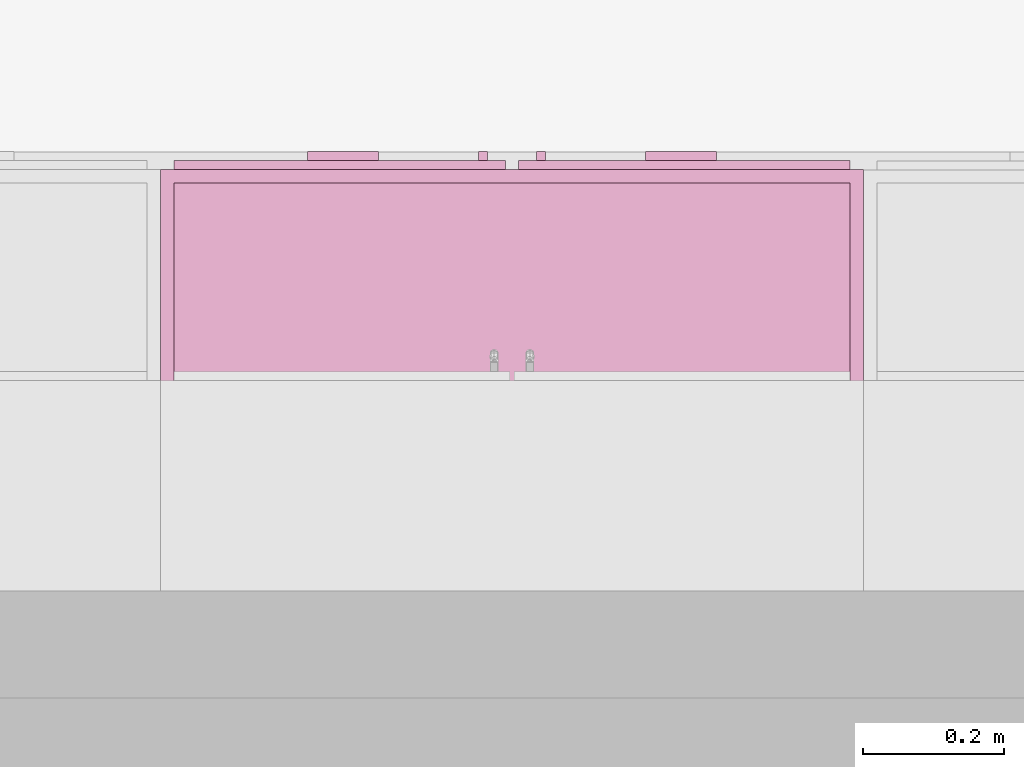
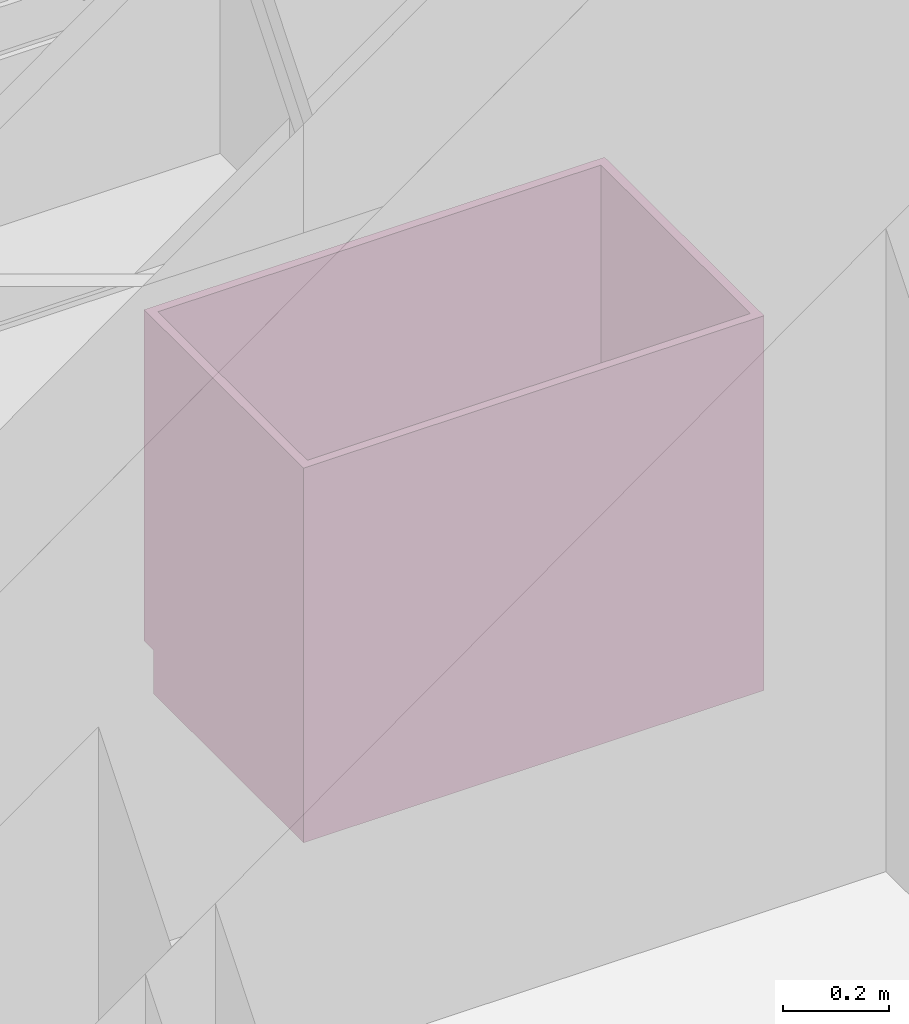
# One storey, part 11 of 14: 1 furnishing.
"""IFC4 building model written with IfcOpenShell, lengths in metres."""

from ifc_helpers import new_model, entity, si_unit, converted_unit, frame, origin, place, context, project, spatial, face_set, surface_model, source, transform, mapped, element, save


model = new_model("IFC4")

# Units and contexts
model_context = context("Model", 3, precision=1e-09, world=origin())
plan_context = context("Plan", 3, precision=1e-09, world=origin())
ifc_project = project(units=[si_unit("LENGTHUNIT", "METRE"), si_unit("AREAUNIT", "SQUARE_METRE"), si_unit("VOLUMEUNIT", "CUBIC_METRE"), converted_unit("PLANEANGLEUNIT", "DEGREE", entity("IfcRatioMeasure", 0.01745329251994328), si_unit("PLANEANGLEUNIT", "RADIAN"), dimensions=[0, 0, 0, 0, 0, 0, 0]), si_unit("TIMEUNIT", "SECOND")], contexts=[model_context, plan_context])

# Site, building, storey, space
site_placement = place(None, origin())
site = spatial("IfcSite", under=ifc_project, at=site_placement, Name="Default", CompositionType="ELEMENT")
building_placement = place(site_placement, origin())
building = spatial("IfcBuilding", under=site, at=building_placement, CompositionType="ELEMENT")
storey_placement = place(building_placement, origin())
storey = spatial("IfcBuildingStorey", under=building, at=storey_placement, Name="Level 1", CompositionType="ELEMENT", Elevation=0.0)
space_placement = place(storey_placement, origin())
space = spatial("IfcSpace", under=storey, at=space_placement, Name="B103", CompositionType="ELEMENT", PredefinedType="INTERNAL")

# Furnishing
shared_shape = source(origin(), model_context, "Body", "SurfaceModel", [
    surface_model("IfcFaceBasedSurfaceModel", [(0.9809499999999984, 0.04445000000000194, 0.8600000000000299), (0.9809499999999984, 0.04445000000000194, 0.0999999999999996), (0.01905000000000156, 0.04445000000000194, 0.0999999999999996), (0.01905000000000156, 0.04445000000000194, 0.8600000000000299), (1.0, 0.02540000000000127, 0.8600000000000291), (0.0, 0.02540000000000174, 0.8600000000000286), (1.0, 0.02540000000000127, 0.0999999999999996), (0.0, 0.02540000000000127, 0.09999999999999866), (0.01905000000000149, 0.606349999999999, 0.8600000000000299), (0.01905000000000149, 0.606349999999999, 0.09999999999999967), (0.01905000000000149, 0.06040000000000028, 0.0999999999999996), (0.0, 0.6253999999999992, 0.8600000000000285), (0.0, 0.6254000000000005, 0.0), (0.0, 0.06040000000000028, 0.0), (0.0, 0.06040000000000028, 0.09999999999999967), (0.9809499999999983, 0.6063499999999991, 0.8600000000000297), (0.9809499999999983, 0.6063499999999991, 0.09999999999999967), (1.0, 0.6253999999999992, 0.8600000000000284), (1.0, 0.6253999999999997, 0.0), (0.9809499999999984, 0.06040000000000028, 0.09999999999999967), (1.0, 0.06040000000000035, 0.09999999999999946), (1.0, 0.06040000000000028, 0.0), (0.3103250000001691, 0.0, 0.815550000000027), (0.3103250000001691, 0.0, 0.8028500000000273), (0.2087250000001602, 0.0, 0.8028500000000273), (0.2087250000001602, 0.0, 0.815550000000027), (0.7912750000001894, 0.0, 0.815550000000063), (0.7912750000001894, 0.0, 0.8028500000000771), (0.6896750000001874, 0.0, 0.8028500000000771), (0.6896750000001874, 0.0, 0.815550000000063), (0.4650750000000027, 0.0, 0.6822000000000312), (0.4650750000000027, 0.0, 0.5806000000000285), (0.4523750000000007, 0.0, 0.5806000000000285), (0.4523750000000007, 0.0, 0.6822000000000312), (0.5476249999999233, 0.0, 0.6822000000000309), (0.5476249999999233, 0.0, 0.5806000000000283), (0.5349249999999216, 0.0, 0.5806000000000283), (0.5349249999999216, 0.0, 0.6822000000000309), (0.3103250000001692, 0.01270000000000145, 0.815550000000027), (0.3103250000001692, 0.01270000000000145, 0.8028500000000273), (0.2087250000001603, 0.01270000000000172, 0.8028500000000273), (0.2087250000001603, 0.01270000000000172, 0.815550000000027), (0.7912750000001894, 0.01269999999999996, 0.815550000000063), (0.7912750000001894, 0.01269999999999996, 0.8028500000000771), (0.6896750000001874, 0.01270000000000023, 0.8028500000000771), (0.6896750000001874, 0.01270000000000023, 0.815550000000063), (0.4650750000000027, 0.0127000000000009, 0.6822000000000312), (0.4650750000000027, 0.0127000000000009, 0.5806000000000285), (0.4523750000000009, 0.0127000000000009, 0.5806000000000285), (0.4523750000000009, 0.0127000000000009, 0.6822000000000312), (0.5476249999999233, 0.01270000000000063, 0.6822000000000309), (0.5476249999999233, 0.01270000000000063, 0.5806000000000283), (0.5349249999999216, 0.01270000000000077, 0.5806000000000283), (0.5349249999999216, 0.01270000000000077, 0.6822000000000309), (0.4904749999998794, 0.0127000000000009, 0.840950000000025), (0.4904749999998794, 0.0127000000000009, 0.7393500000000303), (0.01905000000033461, 0.01270000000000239, 0.7393500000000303), (0.01905000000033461, 0.01270000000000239, 0.840950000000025), (0.9809500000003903, 0.01269999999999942, 0.8409500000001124), (0.9809500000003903, 0.01269999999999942, 0.7393500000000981), (0.509524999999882, 0.0127000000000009, 0.7393500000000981), (0.509524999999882, 0.0127000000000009, 0.8409500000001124), (0.4904749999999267, 0.0127000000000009, 0.7203000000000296), (0.4904749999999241, 0.0127000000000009, 0.119049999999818), (0.01905000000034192, 0.01270000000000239, 0.119049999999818), (0.01905000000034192, 0.01270000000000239, 0.7203000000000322), (0.9809500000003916, 0.01269999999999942, 0.7203000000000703), (0.9809500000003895, 0.01269999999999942, 0.1190499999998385), (0.5095249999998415, 0.0127000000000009, 0.1190499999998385), (0.5095249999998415, 0.0127000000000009, 0.7203000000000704), (0.4904749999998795, 0.02540000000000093, 0.840950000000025), (0.4904749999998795, 0.02540000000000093, 0.7393500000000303), (0.01905000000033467, 0.02540000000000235, 0.7393500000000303), (0.01905000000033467, 0.02540000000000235, 0.840950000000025), (0.9809500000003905, 0.02539999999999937, 0.8409500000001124), (0.9809500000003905, 0.02539999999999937, 0.7393500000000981), (0.5095249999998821, 0.02540000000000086, 0.7393500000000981), (0.5095249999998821, 0.02540000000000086, 0.8409500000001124), (0.4904749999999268, 0.02540000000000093, 0.7203000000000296), (0.4904749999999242, 0.02540000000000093, 0.119049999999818), (0.01905000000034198, 0.02540000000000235, 0.119049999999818), (0.01905000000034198, 0.02540000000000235, 0.7203000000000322), (0.9809500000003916, 0.02539999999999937, 0.7203000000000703), (0.9809500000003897, 0.02539999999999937, 0.1190499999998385), (0.5095249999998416, 0.02540000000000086, 0.1190499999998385), (0.5095249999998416, 0.02540000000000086, 0.7203000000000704), (0.9809499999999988, 0.6063499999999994, 0.1190499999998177), (0.9809499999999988, 0.04445000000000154, 0.1190499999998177), (0.01905000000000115, 0.04445000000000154, 0.1190499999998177), (0.01905000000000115, 0.6063499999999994, 0.1190499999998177), (0.9809499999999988, 0.6063499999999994, 0.09999999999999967), (0.9809499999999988, 0.04445000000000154, 0.09999999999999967), (0.01905000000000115, 0.04445000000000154, 0.09999999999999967), (0.01905000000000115, 0.6063499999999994, 0.09999999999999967)], [face_set([[[0, 1, 2, 3]], [[0, 4, 5, 3]], [[4, 6, 7, 5]], [[2, 1, 6, 7]], [[3, 8, 9, 10, 2]], [[5, 11, 8, 3]], [[7, 5, 11, 12, 13, 14]], [[2, 7, 14, 10]], [[8, 15, 16, 9]], [[11, 17, 15, 8]], [[12, 11, 17, 18]], [[1, 19, 16, 15, 0]], [[0, 15, 17, 4]], [[4, 6, 20, 21, 18, 17]], [[6, 1, 19, 20]], [[10, 9, 16, 19]], [[18, 21, 13, 12]], [[13, 14, 10, 19, 20, 21]]]), face_set([[[22, 23, 24, 25]], [[26, 27, 28, 29]], [[30, 31, 32, 33]], [[34, 35, 36, 37]], [[38, 39, 40, 41]], [[42, 43, 44, 45]], [[46, 47, 48, 49]], [[50, 51, 52, 53]], [[25, 41, 38, 22]], [[24, 40, 41, 25]], [[23, 24, 40, 39]], [[22, 23, 39, 38]], [[29, 45, 42, 26]], [[28, 44, 45, 29]], [[27, 28, 44, 43]], [[26, 27, 43, 42]], [[33, 49, 46, 30]], [[32, 48, 49, 33]], [[31, 32, 48, 47]], [[30, 31, 47, 46]], [[37, 53, 50, 34]], [[36, 52, 53, 37]], [[35, 36, 52, 51]], [[34, 35, 51, 50]]]), face_set([[[54, 55, 56, 57]], [[58, 59, 60, 61]], [[62, 63, 64, 65]], [[66, 67, 68, 69]], [[70, 71, 72, 73]], [[74, 75, 76, 77]], [[78, 79, 80, 81]], [[82, 83, 84, 85]], [[57, 73, 70, 54]], [[56, 57, 73, 72]], [[55, 56, 72, 71]], [[54, 55, 71, 70]], [[61, 77, 74, 58]], [[60, 76, 77, 61]], [[59, 60, 76, 75]], [[58, 59, 75, 74]], [[65, 81, 78, 62]], [[64, 65, 81, 80]], [[63, 64, 80, 79]], [[62, 63, 79, 78]], [[69, 85, 82, 66]], [[68, 84, 85, 69]], [[67, 68, 84, 83]], [[66, 67, 83, 82]]]), face_set([[[86, 87, 88, 89]], [[90, 91, 92, 93]], [[89, 86, 90, 93]], [[88, 89, 93, 92]], [[87, 91, 92, 88]], [[86, 87, 91, 90]]])]),
])
furnishing_placement = place(space_placement, frame((6.333999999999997, -6.804599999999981, 0.0), z_axis=(0.0, 0.0, 1.0), x_axis=(-1.0, 0.0, 0.0)))
element("IfcFurnishingElement", 1, at=furnishing_placement, inside=space, Name="M_Base Cabinet-Double Door & 2 Drawer:1000mm:1000mm", ObjectType="1000mm", context=model_context, shape_type="MappedRepresentation", body=[
    mapped(shared_shape, transform((0.0, 0.0, 0.0), scale=1.0)),
])

save(model, "model.ifc")
